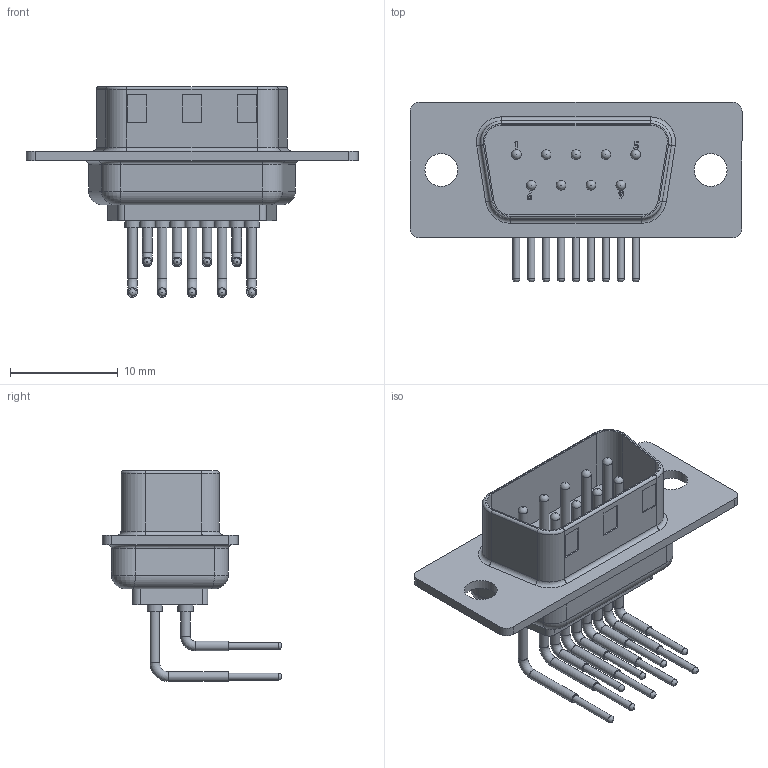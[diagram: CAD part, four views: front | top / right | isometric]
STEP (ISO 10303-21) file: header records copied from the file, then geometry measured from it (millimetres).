
FILE_DESCRIPTION (( 'STEP AP203' ), '1' );
FILE_NAME ('174E-009-113.STEP', '2018-10-19T20:02:03', ( '' ), ( '' ), 'SwSTEP 2.0', 'SolidWorks 2017', '' );
FILE_SCHEMA (( 'CONFIG_CONTROL_DESIGN' ));
Length unit declared in the file: inch
Products named in the file (1): 174E-009-113
Bounding box: 30.81 x 16.65 x 19.56 mm (x, y, z)
Volume: 1467.4 mm3; surface area: 2137.4 mm2
Topology: 1 solids, 1 shells, 267 faces, 571 edges, 358 vertices
Faces by surface type: plane 117, cylinder 83, torus 43, bspline 24
Full cylindrical faces by diameter (mm): 0.66 x9, 0.889 x27, 1.397 x9, 3.048 x2
Entity records: 8082 total; most frequent: CARTESIAN_POINT 2507, DIRECTION 1129, ORIENTED_EDGE 994, EDGE_CURVE 497, AXIS2_PLACEMENT_3D 440, EDGE_LOOP 397, VERTEX_POINT 358, FACE_OUTER_BOUND 341
